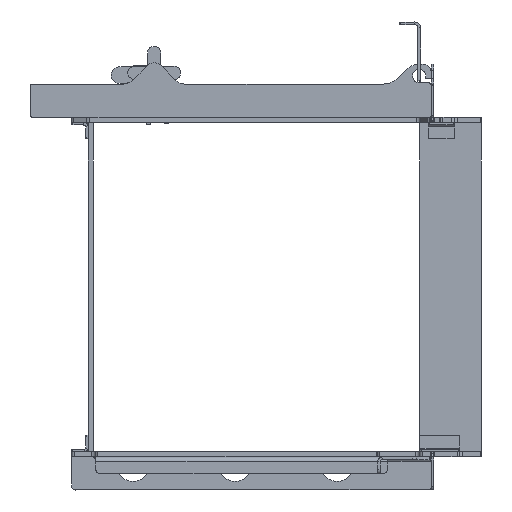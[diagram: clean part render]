
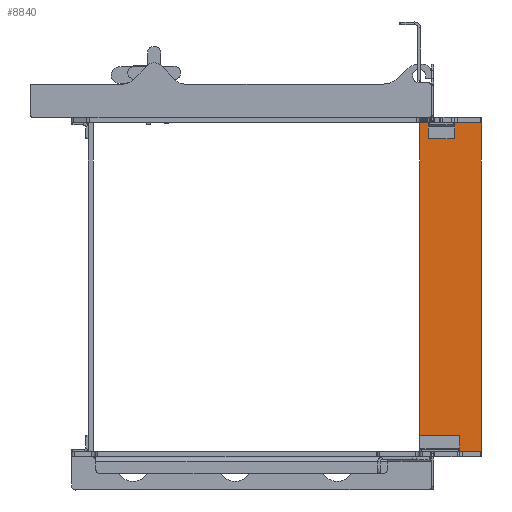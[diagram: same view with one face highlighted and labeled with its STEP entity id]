
A CAD part, left-side view. The second image highlights one B-rep face of the part: STEP entity #8840.
In plain terms, the highlighted planar face has unit normal (-1, 0, 0).
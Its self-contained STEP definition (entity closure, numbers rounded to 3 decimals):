
#352=PLANE('',#9566);
#717=FACE_OUTER_BOUND('',#1219,.T.);
#1219=EDGE_LOOP('',(#6913,#6914,#6915,#6916,#6917,#6918,#6919,#6920));
#1868=LINE('',#13877,#2724);
#1874=LINE('',#13897,#2730);
#1877=LINE('',#13905,#2733);
#1879=LINE('',#13911,#2735);
#2724=VECTOR('',#11217,10.);
#2730=VECTOR('',#11237,10.);
#2733=VECTOR('',#11246,10.);
#2735=VECTOR('',#11254,10.);
#3399=CIRCLE('',#9550,1.);
#3404=CIRCLE('',#9558,1.);
#3405=CIRCLE('',#9561,1.);
#3406=CIRCLE('',#9564,1.);
#3999=VERTEX_POINT('',#13864);
#4000=VERTEX_POINT('',#13865);
#4004=VERTEX_POINT('',#13875);
#4010=VERTEX_POINT('',#13891);
#4011=VERTEX_POINT('',#13895);
#4012=VERTEX_POINT('',#13899);
#4013=VERTEX_POINT('',#13903);
#4014=VERTEX_POINT('',#13907);
#5026=EDGE_CURVE('',#3999,#4000,#3399,.T.);
#5032=EDGE_CURVE('',#4004,#3999,#1868,.T.);
#5039=EDGE_CURVE('',#4010,#4004,#3404,.T.);
#5042=EDGE_CURVE('',#4011,#4010,#1874,.T.);
#5043=EDGE_CURVE('',#4012,#4011,#3405,.T.);
#5046=EDGE_CURVE('',#4013,#4012,#1877,.T.);
#5047=EDGE_CURVE('',#4014,#4013,#3406,.T.);
#5049=EDGE_CURVE('',#4000,#4014,#1879,.T.);
#6913=ORIENTED_EDGE('',*,*,#5026,.F.);
#6914=ORIENTED_EDGE('',*,*,#5032,.F.);
#6915=ORIENTED_EDGE('',*,*,#5039,.F.);
#6916=ORIENTED_EDGE('',*,*,#5042,.F.);
#6917=ORIENTED_EDGE('',*,*,#5043,.F.);
#6918=ORIENTED_EDGE('',*,*,#5046,.F.);
#6919=ORIENTED_EDGE('',*,*,#5047,.F.);
#6920=ORIENTED_EDGE('',*,*,#5049,.F.);
#8840=ADVANCED_FACE('',(#717),#352,.T.);
#9550=AXIS2_PLACEMENT_3D('',#13866,#11207,#11208);
#9558=AXIS2_PLACEMENT_3D('',#13892,#11231,#11232);
#9561=AXIS2_PLACEMENT_3D('',#13900,#11240,#11241);
#9564=AXIS2_PLACEMENT_3D('',#13908,#11249,#11250);
#9566=AXIS2_PLACEMENT_3D('',#13912,#11255,#11256);
#11207=DIRECTION('center_axis',(1.,0.,0.));
#11208=DIRECTION('ref_axis',(0.,0.707,-0.707));
#11217=DIRECTION('',(0.,1.,0.));
#11231=DIRECTION('center_axis',(1.,0.,0.));
#11232=DIRECTION('ref_axis',(0.,-0.707,-0.707));
#11237=DIRECTION('',(0.,0.,-1.));
#11240=DIRECTION('center_axis',(1.,0.,0.));
#11241=DIRECTION('ref_axis',(0.,-0.707,0.707));
#11246=DIRECTION('',(0.,-1.,0.));
#11249=DIRECTION('center_axis',(1.,0.,0.));
#11250=DIRECTION('ref_axis',(0.,0.707,0.707));
#11254=DIRECTION('',(0.,0.,1.));
#11255=DIRECTION('center_axis',(-1.,0.,0.));
#11256=DIRECTION('ref_axis',(0.,-1.,0.));
#13864=CARTESIAN_POINT('',(0.,92.,-499.));
#13865=CARTESIAN_POINT('',(0.,93.,-498.));
#13866=CARTESIAN_POINT('Origin',(0.,92.,
-498.));
#13875=CARTESIAN_POINT('',(0.,1.,-499.));
#13877=CARTESIAN_POINT('',(0.,93.,-499.));
#13891=CARTESIAN_POINT('',(0.,0.,
-498.));
#13892=CARTESIAN_POINT('Origin',(0.,1.,
-498.));
#13895=CARTESIAN_POINT('',(0.,0.,-1.));
#13897=CARTESIAN_POINT('',(0.,0.,
-499.));
#13899=CARTESIAN_POINT('',(0.,1.,0.));
#13900=CARTESIAN_POINT('Origin',(0.,1.,
-1.));
#13903=CARTESIAN_POINT('',(0.,92.,0.));
#13905=CARTESIAN_POINT('',(0.,0.,0.));
#13907=CARTESIAN_POINT('',(0.,93.,-1.));
#13908=CARTESIAN_POINT('Origin',(0.,92.,
-1.));
#13911=CARTESIAN_POINT('',(0.,93.,0.));
#13912=CARTESIAN_POINT('Origin',(0.,46.5,-249.5));
